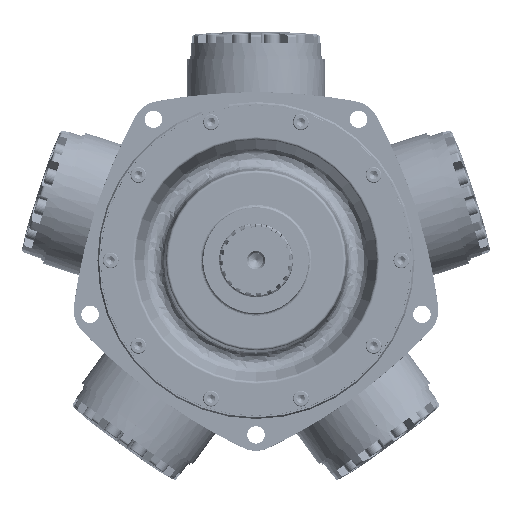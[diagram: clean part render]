
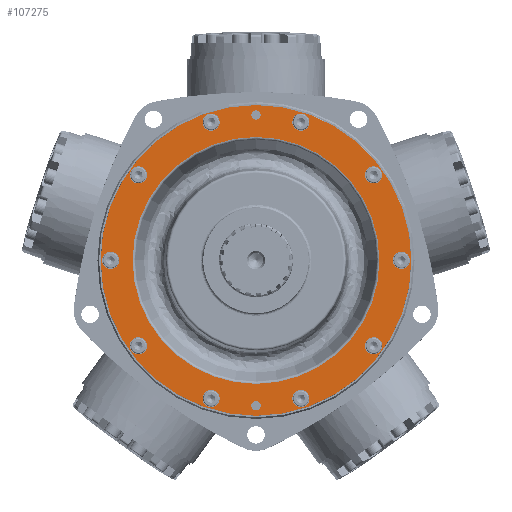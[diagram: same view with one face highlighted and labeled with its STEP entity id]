
A CAD part, top view. The second image highlights one B-rep face of the part: STEP entity #107275.
In plain terms, the highlighted planar face has unit normal (0, 0, 1).
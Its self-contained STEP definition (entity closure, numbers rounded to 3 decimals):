
#107116=CARTESIAN_POINT('',(0.,169.862,69.152));
#107117=DIRECTION('',(0.0,0.0,1.0));
#107118=DIRECTION('',(1.0,0.0,0.0));
#107119=AXIS2_PLACEMENT_3D('',#107116,#107117,#107118);
#107120=PLANE('',#107119);
#107121=CARTESIAN_POINT('',(0.,186.626,69.152));
#107122=VERTEX_POINT('',#107121);
#107123=CARTESIAN_POINT('',(0.,0.,69.152));
#107124=DIRECTION('',(0.0,0.0,1.0));
#107125=DIRECTION('',(0.0,-1.0,0.0));
#107126=AXIS2_PLACEMENT_3D('',#107123,#107124,#107125);
#107127=CIRCLE('',#107126,186.626);
#107128=EDGE_CURVE('',#107122,#107122,#107127,.T.);
#107129=ORIENTED_EDGE('',*,*,#107128,.T.);
#107130=EDGE_LOOP('',(#107129));
#107131=FACE_OUTER_BOUND('',#107130,.T.);
#107132=CARTESIAN_POINT('',(5.664,174.625,69.152));
#107133=VERTEX_POINT('',#107132);
#107134=CARTESIAN_POINT('',(0.,174.625,69.152));
#107135=DIRECTION('',(0.0,0.0,-1.0));
#107136=DIRECTION('',(1.0,0.0,0.0));
#107137=AXIS2_PLACEMENT_3D('',#107134,#107135,#107136);
#107138=CIRCLE('',#107137,5.664);
#107139=EDGE_CURVE('',#107133,#107133,#107138,.T.);
#107140=ORIENTED_EDGE('',*,*,#107139,.T.);
#107141=EDGE_LOOP('',(#107140));
#107142=FACE_BOUND('',#107141,.T.);
#107143=CARTESIAN_POINT('',(5.664,-174.625,69.152));
#107144=VERTEX_POINT('',#107143);
#107145=CARTESIAN_POINT('',(0.,-174.625,69.152));
#107146=DIRECTION('',(0.0,0.0,-1.0));
#107147=DIRECTION('',(1.0,0.0,0.0));
#107148=AXIS2_PLACEMENT_3D('',#107145,#107146,#107147);
#107149=CIRCLE('',#107148,5.664);
#107150=EDGE_CURVE('',#107144,#107144,#107149,.T.);
#107151=ORIENTED_EDGE('',*,*,#107150,.T.);
#107152=EDGE_LOOP('',(#107151));
#107153=FACE_BOUND('',#107152,.T.);
#107154=CARTESIAN_POINT('',(57.151,-175.892,69.152));
#107155=VERTEX_POINT('',#107154);
#107156=CARTESIAN_POINT('',(53.962,-166.078,69.152));
#107157=DIRECTION('',(0.,0.,-1.));
#107158=DIRECTION('',(0.309,-0.951,0.));
#107159=AXIS2_PLACEMENT_3D('',#107156,#107157,#107158);
#107160=CIRCLE('',#107159,10.319);
#107161=EDGE_CURVE('',#107155,#107155,#107160,.T.);
#107162=ORIENTED_EDGE('',*,*,#107161,.T.);
#107163=EDGE_LOOP('',(#107162));
#107164=FACE_BOUND('',#107163,.T.);
#107165=CARTESIAN_POINT('',(-57.151,-175.892,69.152));
#107166=VERTEX_POINT('',#107165);
#107167=CARTESIAN_POINT('',(-53.962,-166.078,69.152));
#107168=DIRECTION('',(0.,0.,-1.));
#107169=DIRECTION('',(-0.309,-0.951,0.));
#107170=AXIS2_PLACEMENT_3D('',#107167,#107168,#107169);
#107171=CIRCLE('',#107170,10.319);
#107172=EDGE_CURVE('',#107166,#107166,#107171,.T.);
#107173=ORIENTED_EDGE('',*,*,#107172,.T.);
#107174=EDGE_LOOP('',(#107173));
#107175=FACE_BOUND('',#107174,.T.);
#107176=CARTESIAN_POINT('',(-149.623,-108.707,69.152));
#107177=VERTEX_POINT('',#107176);
#107178=CARTESIAN_POINT('',(-141.275,-102.642,69.152));
#107179=DIRECTION('',(0.,0.,-1.0));
#107180=DIRECTION('',(-0.809,-0.588,0.));
#107181=AXIS2_PLACEMENT_3D('',#107178,#107179,#107180);
#107182=CIRCLE('',#107181,10.319);
#107183=EDGE_CURVE('',#107177,#107177,#107182,.T.);
#107184=ORIENTED_EDGE('',*,*,#107183,.T.);
#107185=EDGE_LOOP('',(#107184));
#107186=FACE_BOUND('',#107185,.T.);
#107187=CARTESIAN_POINT('',(-184.944,0.,69.152));
#107188=VERTEX_POINT('',#107187);
#107189=CARTESIAN_POINT('',(-174.625,0.,69.152));
#107190=DIRECTION('',(0.0,0.0,-1.0));
#107191=DIRECTION('',(-1.0,0.0,0.0));
#107192=AXIS2_PLACEMENT_3D('',#107189,#107190,#107191);
#107193=CIRCLE('',#107192,10.319);
#107194=EDGE_CURVE('',#107188,#107188,#107193,.T.);
#107195=ORIENTED_EDGE('',*,*,#107194,.T.);
#107196=EDGE_LOOP('',(#107195));
#107197=FACE_BOUND('',#107196,.T.);
#107198=CARTESIAN_POINT('',(-149.623,108.707,69.152));
#107199=VERTEX_POINT('',#107198);
#107200=CARTESIAN_POINT('',(-141.275,102.642,69.152));
#107201=DIRECTION('',(0.,0.,-1.));
#107202=DIRECTION('',(-0.809,0.588,0.));
#107203=AXIS2_PLACEMENT_3D('',#107200,#107201,#107202);
#107204=CIRCLE('',#107203,10.319);
#107205=EDGE_CURVE('',#107199,#107199,#107204,.T.);
#107206=ORIENTED_EDGE('',*,*,#107205,.T.);
#107207=EDGE_LOOP('',(#107206));
#107208=FACE_BOUND('',#107207,.T.);
#107209=CARTESIAN_POINT('',(-57.151,175.892,69.152));
#107210=VERTEX_POINT('',#107209);
#107211=CARTESIAN_POINT('',(-53.962,166.078,69.152));
#107212=DIRECTION('',(0.,0.,-1.));
#107213=DIRECTION('',(-0.309,0.951,0.));
#107214=AXIS2_PLACEMENT_3D('',#107211,#107212,#107213);
#107215=CIRCLE('',#107214,10.319);
#107216=EDGE_CURVE('',#107210,#107210,#107215,.T.);
#107217=ORIENTED_EDGE('',*,*,#107216,.T.);
#107218=EDGE_LOOP('',(#107217));
#107219=FACE_BOUND('',#107218,.T.);
#107220=CARTESIAN_POINT('',(57.151,175.892,69.152));
#107221=VERTEX_POINT('',#107220);
#107222=CARTESIAN_POINT('',(53.962,166.078,69.152));
#107223=DIRECTION('',(0.,0.,-1.));
#107224=DIRECTION('',(0.309,0.951,0.));
#107225=AXIS2_PLACEMENT_3D('',#107222,#107223,#107224);
#107226=CIRCLE('',#107225,10.319);
#107227=EDGE_CURVE('',#107221,#107221,#107226,.T.);
#107228=ORIENTED_EDGE('',*,*,#107227,.T.);
#107229=EDGE_LOOP('',(#107228));
#107230=FACE_BOUND('',#107229,.T.);
#107231=CARTESIAN_POINT('',(149.623,108.707,69.152));
#107232=VERTEX_POINT('',#107231);
#107233=CARTESIAN_POINT('',(141.275,102.642,69.152));
#107234=DIRECTION('',(0.,0.,-1.));
#107235=DIRECTION('',(0.809,0.588,0.));
#107236=AXIS2_PLACEMENT_3D('',#107233,#107234,#107235);
#107237=CIRCLE('',#107236,10.319);
#107238=EDGE_CURVE('',#107232,#107232,#107237,.T.);
#107239=ORIENTED_EDGE('',*,*,#107238,.T.);
#107240=EDGE_LOOP('',(#107239));
#107241=FACE_BOUND('',#107240,.T.);
#107242=CARTESIAN_POINT('',(149.623,-108.707,69.152));
#107243=VERTEX_POINT('',#107242);
#107244=CARTESIAN_POINT('',(141.275,-102.642,69.152));
#107245=DIRECTION('',(0.,0.,-1.));
#107246=DIRECTION('',(0.809,-0.588,0.));
#107247=AXIS2_PLACEMENT_3D('',#107244,#107245,#107246);
#107248=CIRCLE('',#107247,10.319);
#107249=EDGE_CURVE('',#107243,#107243,#107248,.T.);
#107250=ORIENTED_EDGE('',*,*,#107249,.T.);
#107251=EDGE_LOOP('',(#107250));
#107252=FACE_BOUND('',#107251,.T.);
#107253=CARTESIAN_POINT('',(184.944,0.,69.152));
#107254=VERTEX_POINT('',#107253);
#107255=CARTESIAN_POINT('',(174.625,0.,69.152));
#107256=DIRECTION('',(0.0,0.0,-1.0));
#107257=DIRECTION('',(1.0,0.0,0.0));
#107258=AXIS2_PLACEMENT_3D('',#107255,#107256,#107257);
#107259=CIRCLE('',#107258,10.319);
#107260=EDGE_CURVE('',#107254,#107254,#107259,.T.);
#107261=ORIENTED_EDGE('',*,*,#107260,.T.);
#107262=EDGE_LOOP('',(#107261));
#107263=FACE_BOUND('',#107262,.T.);
#107264=CARTESIAN_POINT('',(0.,148.273,69.152));
#107265=VERTEX_POINT('',#107264);
#107266=CARTESIAN_POINT('',(0.,0.,69.152));
#107267=DIRECTION('',(0.0,0.0,1.0));
#107268=DIRECTION('',(0.0,-1.0,0.0));
#107269=AXIS2_PLACEMENT_3D('',#107266,#107267,#107268);
#107270=CIRCLE('',#107269,148.273);
#107271=EDGE_CURVE('',#107265,#107265,#107270,.T.);
#107272=ORIENTED_EDGE('',*,*,#107271,.F.);
#107273=EDGE_LOOP('',(#107272));
#107274=FACE_BOUND('',#107273,.T.);
#107275=ADVANCED_FACE('',(#107131,#107142,#107153,#107164,#107175,#107186,#107197,#107208,#107219,#107230,#107241,#107252,#107263,#107274),#107120,.T.);
